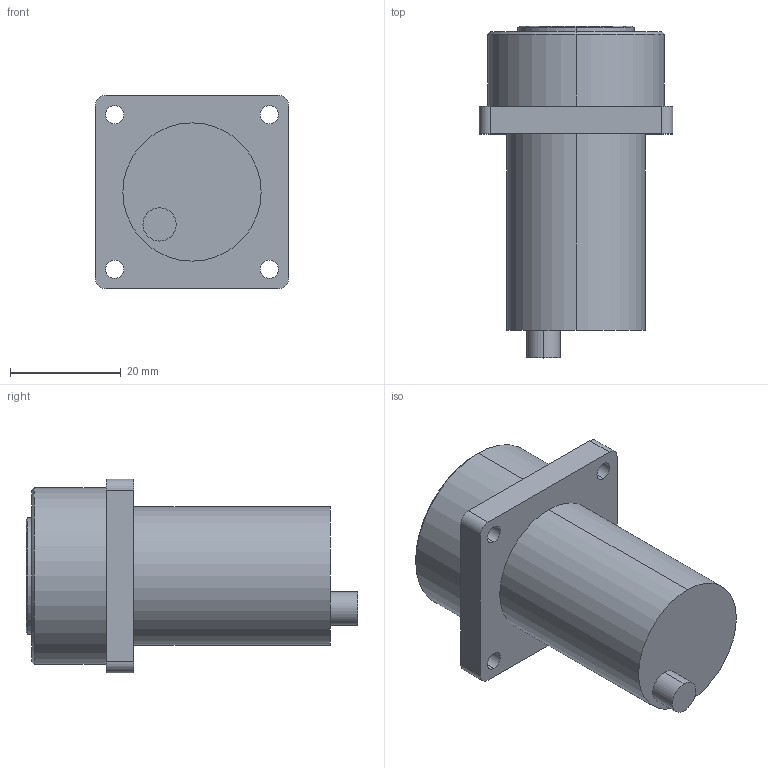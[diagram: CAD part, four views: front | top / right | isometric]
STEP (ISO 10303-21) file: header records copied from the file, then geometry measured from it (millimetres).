
FILE_DESCRIPTION (( 'STEP AP214' ), '1' );
FILE_NAME ('S37.T4S55F³ß´çÍ¼-24.11.28.STEP', '2024-11-28T06:10:57', ( '' ), ( '' ), 'SwSTEP 2.0', 'SolidWorks 2016', '' );
FILE_SCHEMA (( 'AUTOMOTIVE_DESIGN' ));
Length unit declared in the file: millimetre
Products named in the file (1): S37.T4S55F喜渡芞-24.11.28
Bounding box: 35 x 60 x 35 mm (x, y, z)
Volume: 34620.8 mm3; surface area: 7672.9 mm2
Topology: 1 solids, 1 shells, 50 faces, 120 edges, 72 vertices
Faces by surface type: cylinder 28, cone 12, plane 10
Entity records: 1726 total; most frequent: DIRECTION 274, CARTESIAN_POINT 235, ORIENTED_EDGE 224, EDGE_CURVE 112, AXIS2_PLACEMENT_3D 111, VERTEX_POINT 72, EDGE_LOOP 66, CIRCLE 60
